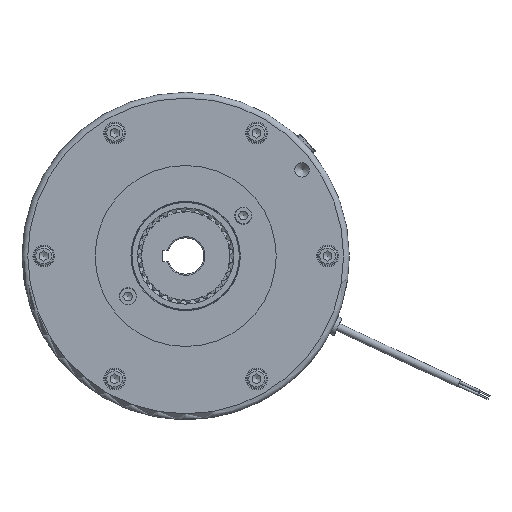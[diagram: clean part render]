
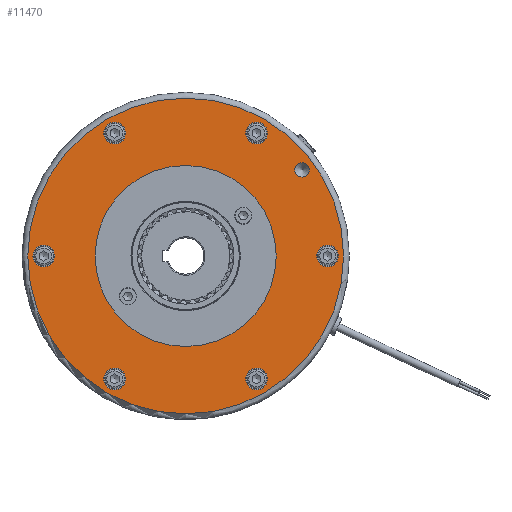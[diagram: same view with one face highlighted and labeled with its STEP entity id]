
A CAD part, left-side view. The second image highlights one B-rep face of the part: STEP entity #11470.
In plain terms, the highlighted planar face has unit normal (-1, 0, 0).
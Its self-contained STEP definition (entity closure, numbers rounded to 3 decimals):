
#796=FACE_BOUND('',#2688,.T.);
#797=FACE_BOUND('',#2689,.T.);
#798=FACE_BOUND('',#2690,.T.);
#799=FACE_BOUND('',#2691,.T.);
#800=FACE_BOUND('',#2692,.T.);
#801=FACE_BOUND('',#2693,.T.);
#802=FACE_BOUND('',#2694,.T.);
#803=FACE_BOUND('',#2695,.T.);
#1329=CIRCLE('',#12542,5.);
#1330=CIRCLE('',#12543,5.);
#1337=CIRCLE('',#12553,109.);
#1338=CIRCLE('',#12554,109.);
#1340=CIRCLE('',#12558,62.5);
#1341=CIRCLE('',#12559,62.5);
#1342=CIRCLE('',#12560,7.5);
#1343=CIRCLE('',#12561,7.5);
#1344=CIRCLE('',#12562,7.5);
#1345=CIRCLE('',#12563,7.5);
#1346=CIRCLE('',#12564,7.5);
#1347=CIRCLE('',#12565,7.5);
#1348=CIRCLE('',#12566,7.5);
#1349=CIRCLE('',#12567,7.5);
#1350=CIRCLE('',#12568,7.5);
#1351=CIRCLE('',#12569,7.5);
#1352=CIRCLE('',#12570,7.5);
#1353=CIRCLE('',#12571,7.5);
#2038=FACE_OUTER_BOUND('',#2687,.T.);
#2687=EDGE_LOOP('',(#8641,#8642));
#2688=EDGE_LOOP('',(#8643,#8644));
#2689=EDGE_LOOP('',(#8645,#8646));
#2690=EDGE_LOOP('',(#8647,#8648));
#2691=EDGE_LOOP('',(#8649,#8650));
#2692=EDGE_LOOP('',(#8651,#8652));
#2693=EDGE_LOOP('',(#8653,#8654));
#2694=EDGE_LOOP('',(#8655,#8656));
#2695=EDGE_LOOP('',(#8657,#8658));
#4741=VERTEX_POINT('',#19025);
#4742=VERTEX_POINT('',#19026);
#4747=VERTEX_POINT('',#19044);
#4748=VERTEX_POINT('',#19046);
#4749=VERTEX_POINT('',#19052);
#4750=VERTEX_POINT('',#19053);
#4751=VERTEX_POINT('',#19056);
#4752=VERTEX_POINT('',#19057);
#4753=VERTEX_POINT('',#19060);
#4754=VERTEX_POINT('',#19061);
#4755=VERTEX_POINT('',#19064);
#4756=VERTEX_POINT('',#19065);
#4757=VERTEX_POINT('',#19068);
#4758=VERTEX_POINT('',#19069);
#4759=VERTEX_POINT('',#19072);
#4760=VERTEX_POINT('',#19073);
#4761=VERTEX_POINT('',#19076);
#4762=VERTEX_POINT('',#19077);
#6158=EDGE_CURVE('',#4741,#4742,#1329,.T.);
#6159=EDGE_CURVE('',#4742,#4741,#1330,.T.);
#6169=EDGE_CURVE('',#4747,#4748,#1337,.T.);
#6170=EDGE_CURVE('',#4748,#4747,#1338,.T.);
#6172=EDGE_CURVE('',#4749,#4750,#1340,.T.);
#6173=EDGE_CURVE('',#4750,#4749,#1341,.T.);
#6174=EDGE_CURVE('',#4751,#4752,#1342,.T.);
#6175=EDGE_CURVE('',#4752,#4751,#1343,.T.);
#6176=EDGE_CURVE('',#4753,#4754,#1344,.T.);
#6177=EDGE_CURVE('',#4754,#4753,#1345,.T.);
#6178=EDGE_CURVE('',#4755,#4756,#1346,.T.);
#6179=EDGE_CURVE('',#4756,#4755,#1347,.T.);
#6180=EDGE_CURVE('',#4757,#4758,#1348,.T.);
#6181=EDGE_CURVE('',#4758,#4757,#1349,.T.);
#6182=EDGE_CURVE('',#4759,#4760,#1350,.T.);
#6183=EDGE_CURVE('',#4760,#4759,#1351,.T.);
#6184=EDGE_CURVE('',#4761,#4762,#1352,.T.);
#6185=EDGE_CURVE('',#4762,#4761,#1353,.T.);
#8641=ORIENTED_EDGE('',*,*,#6170,.F.);
#8642=ORIENTED_EDGE('',*,*,#6169,.F.);
#8643=ORIENTED_EDGE('',*,*,#6158,.T.);
#8644=ORIENTED_EDGE('',*,*,#6159,.T.);
#8645=ORIENTED_EDGE('',*,*,#6172,.T.);
#8646=ORIENTED_EDGE('',*,*,#6173,.T.);
#8647=ORIENTED_EDGE('',*,*,#6174,.T.);
#8648=ORIENTED_EDGE('',*,*,#6175,.T.);
#8649=ORIENTED_EDGE('',*,*,#6176,.T.);
#8650=ORIENTED_EDGE('',*,*,#6177,.T.);
#8651=ORIENTED_EDGE('',*,*,#6178,.T.);
#8652=ORIENTED_EDGE('',*,*,#6179,.T.);
#8653=ORIENTED_EDGE('',*,*,#6180,.T.);
#8654=ORIENTED_EDGE('',*,*,#6181,.T.);
#8655=ORIENTED_EDGE('',*,*,#6182,.T.);
#8656=ORIENTED_EDGE('',*,*,#6183,.T.);
#8657=ORIENTED_EDGE('',*,*,#6184,.T.);
#8658=ORIENTED_EDGE('',*,*,#6185,.T.);
#10467=PLANE('',#12557);
#11470=ADVANCED_FACE('',(#2038,#796,#797,#798,#799,#800,#801,#802,#803),
#10467,.T.);
#12542=AXIS2_PLACEMENT_3D('',#19027,#14948,#14949);
#12543=AXIS2_PLACEMENT_3D('',#19028,#14950,#14951);
#12553=AXIS2_PLACEMENT_3D('',#19047,#14973,#14974);
#12554=AXIS2_PLACEMENT_3D('',#19048,#14975,#14976);
#12557=AXIS2_PLACEMENT_3D('',#19051,#14981,#14982);
#12558=AXIS2_PLACEMENT_3D('',#19054,#14983,#14984);
#12559=AXIS2_PLACEMENT_3D('',#19055,#14985,#14986);
#12560=AXIS2_PLACEMENT_3D('',#19058,#14987,#14988);
#12561=AXIS2_PLACEMENT_3D('',#19059,#14989,#14990);
#12562=AXIS2_PLACEMENT_3D('',#19062,#14991,#14992);
#12563=AXIS2_PLACEMENT_3D('',#19063,#14993,#14994);
#12564=AXIS2_PLACEMENT_3D('',#19066,#14995,#14996);
#12565=AXIS2_PLACEMENT_3D('',#19067,#14997,#14998);
#12566=AXIS2_PLACEMENT_3D('',#19070,#14999,#15000);
#12567=AXIS2_PLACEMENT_3D('',#19071,#15001,#15002);
#12568=AXIS2_PLACEMENT_3D('',#19074,#15003,#15004);
#12569=AXIS2_PLACEMENT_3D('',#19075,#15005,#15006);
#12570=AXIS2_PLACEMENT_3D('',#19078,#15007,#15008);
#12571=AXIS2_PLACEMENT_3D('',#19079,#15009,#15010);
#14948=DIRECTION('center_axis',(1.,0.,0.));
#14949=DIRECTION('ref_axis',(0.,0.,1.));
#14950=DIRECTION('center_axis',(1.,0.,0.));
#14951=DIRECTION('ref_axis',(0.,0.,1.));
#14973=DIRECTION('center_axis',(1.,0.,0.));
#14974=DIRECTION('ref_axis',(0.,-1.,0.));
#14975=DIRECTION('center_axis',(1.,0.,0.));
#14976=DIRECTION('ref_axis',(0.,-1.,0.));
#14981=DIRECTION('center_axis',(-1.,0.,0.));
#14982=DIRECTION('ref_axis',(0.,0.,1.));
#14983=DIRECTION('center_axis',(1.,0.,0.));
#14984=DIRECTION('ref_axis',(0.,1.,0.));
#14985=DIRECTION('center_axis',(1.,0.,0.));
#14986=DIRECTION('ref_axis',(0.,1.,0.));
#14987=DIRECTION('center_axis',(1.,0.,0.));
#14988=DIRECTION('ref_axis',(0.,0.,1.));
#14989=DIRECTION('center_axis',(1.,0.,0.));
#14990=DIRECTION('ref_axis',(0.,0.,1.));
#14991=DIRECTION('center_axis',(1.,0.,0.));
#14992=DIRECTION('ref_axis',(0.,-0.866,0.5));
#14993=DIRECTION('center_axis',(1.,0.,0.));
#14994=DIRECTION('ref_axis',(0.,-0.866,0.5));
#14995=DIRECTION('center_axis',(1.,0.,0.));
#14996=DIRECTION('ref_axis',(0.,-0.866,-0.5));
#14997=DIRECTION('center_axis',(1.,0.,0.));
#14998=DIRECTION('ref_axis',(0.,-0.866,-0.5));
#14999=DIRECTION('center_axis',(1.,0.,0.));
#15000=DIRECTION('ref_axis',(0.,0.,-1.));
#15001=DIRECTION('center_axis',(1.,0.,0.));
#15002=DIRECTION('ref_axis',(0.,0.,-1.));
#15003=DIRECTION('center_axis',(1.,0.,0.));
#15004=DIRECTION('ref_axis',(0.,0.866,-0.5));
#15005=DIRECTION('center_axis',(1.,0.,0.));
#15006=DIRECTION('ref_axis',(0.,0.866,-0.5));
#15007=DIRECTION('center_axis',(1.,0.,0.));
#15008=DIRECTION('ref_axis',(0.,0.866,0.5));
#15009=DIRECTION('center_axis',(1.,0.,0.));
#15010=DIRECTION('ref_axis',(0.,0.866,0.5));
#19025=CARTESIAN_POINT('',(-82.8,-80.386,64.482));
#19026=CARTESIAN_POINT('',(-82.8,-80.386,54.482));
#19027=CARTESIAN_POINT('Origin',(-82.8,-80.386,59.482));
#19028=CARTESIAN_POINT('Origin',(-82.8,-80.386,59.482));
#19044=CARTESIAN_POINT('',(-82.8,0.,109.));
#19046=CARTESIAN_POINT('',(-82.8,109.,0.));
#19047=CARTESIAN_POINT('Origin',(-82.8,0.,0.));
#19048=CARTESIAN_POINT('Origin',(-82.8,0.,0.));
#19051=CARTESIAN_POINT('Origin',(-82.8,87.75,0.));
#19052=CARTESIAN_POINT('',(-82.8,62.5,0.));
#19053=CARTESIAN_POINT('',(-82.8,-62.5,0.));
#19054=CARTESIAN_POINT('Origin',(-82.8,0.,0.));
#19055=CARTESIAN_POINT('Origin',(-82.8,0.,0.));
#19056=CARTESIAN_POINT('',(-82.8,98.,7.5));
#19057=CARTESIAN_POINT('',(-82.8,98.,-7.5));
#19058=CARTESIAN_POINT('Origin',(-82.8,98.,0.));
#19059=CARTESIAN_POINT('Origin',(-82.8,98.,0.));
#19060=CARTESIAN_POINT('',(-82.8,42.505,88.62));
#19061=CARTESIAN_POINT('',(-82.8,55.495,81.12));
#19062=CARTESIAN_POINT('Origin',(-82.8,49.,84.87));
#19063=CARTESIAN_POINT('Origin',(-82.8,49.,84.87));
#19064=CARTESIAN_POINT('',(-82.8,-55.495,81.12));
#19065=CARTESIAN_POINT('',(-82.8,-42.505,88.62));
#19066=CARTESIAN_POINT('Origin',(-82.8,-49.,84.87));
#19067=CARTESIAN_POINT('Origin',(-82.8,-49.,84.87));
#19068=CARTESIAN_POINT('',(-82.8,-98.,-7.5));
#19069=CARTESIAN_POINT('',(-82.8,-98.,7.5));
#19070=CARTESIAN_POINT('Origin',(-82.8,-98.,0.));
#19071=CARTESIAN_POINT('Origin',(-82.8,-98.,0.));
#19072=CARTESIAN_POINT('',(-82.8,-42.505,-88.62));
#19073=CARTESIAN_POINT('',(-82.8,-55.495,-81.12));
#19074=CARTESIAN_POINT('Origin',(-82.8,-49.,-84.87));
#19075=CARTESIAN_POINT('Origin',(-82.8,-49.,-84.87));
#19076=CARTESIAN_POINT('',(-82.8,55.495,-81.12));
#19077=CARTESIAN_POINT('',(-82.8,42.505,-88.62));
#19078=CARTESIAN_POINT('Origin',(-82.8,49.,-84.87));
#19079=CARTESIAN_POINT('Origin',(-82.8,49.,-84.87));
